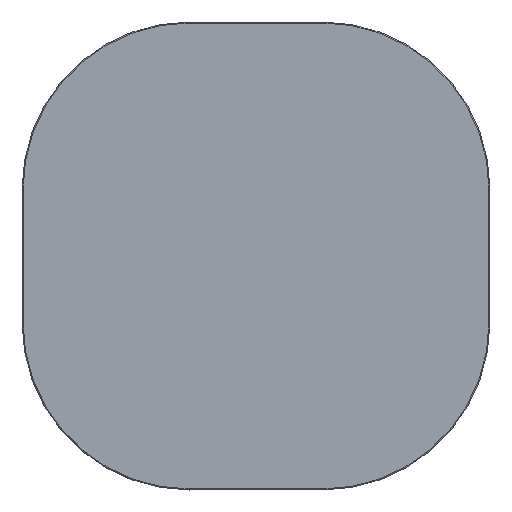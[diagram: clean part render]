
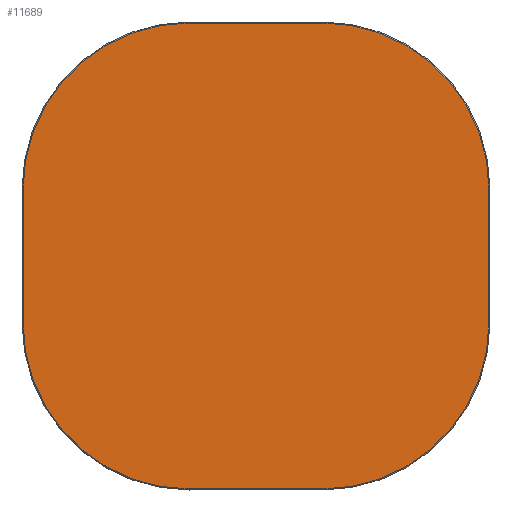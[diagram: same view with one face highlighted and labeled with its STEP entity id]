
A CAD part, top view. The second image highlights one B-rep face of the part: STEP entity #11689.
In plain terms, the highlighted planar face has unit normal (0, 0, 1).
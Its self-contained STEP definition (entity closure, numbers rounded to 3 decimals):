
#11614=CARTESIAN_POINT('',(0.,0.,20.));
#11615=DIRECTION('',(1.,0.,0.));
#11616=DIRECTION('',(0.,0.,1.));
#11617=AXIS2_PLACEMENT_3D('',#11614,#11616,#11615);
#11618=PLANE('',#11617);
#11619=CARTESIAN_POINT('',(-100.,-348.5,20.));
#11620=VERTEX_POINT('',#11619);
#11621=CARTESIAN_POINT('',(100.,-348.5,20.));
#11622=VERTEX_POINT('',#11621);
#11623=CARTESIAN_POINT('',(-100.,-348.5,20.));
#11624=DIRECTION('',(1.,0.,0.));
#11625=VECTOR('',#11624,200.);
#11626=LINE('',#11623,#11625);
#11627=EDGE_CURVE('',#11620,#11622,#11626,.T.);
#11628=ORIENTED_EDGE('E105',*,*,#11627,.T.);
#11629=CARTESIAN_POINT('',(348.5,-100.,20.));
#11630=VERTEX_POINT('',#11629);
#11631=CARTESIAN_POINT('',(100.,-100.,20.));
#11632=DIRECTION('',(0.,-1.,0.));
#11633=DIRECTION('',(0.,0.,1.));
#11634=AXIS2_PLACEMENT_3D('',#11631,#11633,#11632);
#11635=CIRCLE('',#11634,248.5);
#11636=EDGE_CURVE('',#11622,#11630,#11635,.T.);
#11637=ORIENTED_EDGE('E107',*,*,#11636,.T.);
#11638=CARTESIAN_POINT('',(348.5,100.,20.));
#11639=VERTEX_POINT('',#11638);
#11640=CARTESIAN_POINT('',(348.5,-100.,20.));
#11641=DIRECTION('',(0.,1.,0.));
#11642=VECTOR('',#11641,200.);
#11643=LINE('',#11640,#11642);
#11644=EDGE_CURVE('',#11630,#11639,#11643,.T.);
#11645=ORIENTED_EDGE('E109',*,*,#11644,.T.);
#11646=CARTESIAN_POINT('',(100.,348.5,20.));
#11647=VERTEX_POINT('',#11646);
#11648=CARTESIAN_POINT('',(100.,100.,20.));
#11649=DIRECTION('',(1.,0.,0.));
#11650=DIRECTION('',(0.,0.,1.));
#11651=AXIS2_PLACEMENT_3D('',#11648,#11650,#11649);
#11652=CIRCLE('',#11651,248.5);
#11653=EDGE_CURVE('',#11639,#11647,#11652,.T.);
#11654=ORIENTED_EDGE('E111',*,*,#11653,.T.);
#11655=CARTESIAN_POINT('',(-100.,348.5,20.));
#11656=VERTEX_POINT('',#11655);
#11657=CARTESIAN_POINT('',(100.,348.5,20.));
#11658=DIRECTION('',(-1.,0.,0.));
#11659=VECTOR('',#11658,200.);
#11660=LINE('',#11657,#11659);
#11661=EDGE_CURVE('',#11647,#11656,#11660,.T.);
#11662=ORIENTED_EDGE('E113',*,*,#11661,.T.);
#11663=CARTESIAN_POINT('',(-348.5,100.,20.));
#11664=VERTEX_POINT('',#11663);
#11665=CARTESIAN_POINT('',(-100.,100.,20.));
#11666=DIRECTION('',(0.,1.,0.));
#11667=DIRECTION('',(0.,0.,1.));
#11668=AXIS2_PLACEMENT_3D('',#11665,#11667,#11666);
#11669=CIRCLE('',#11668,248.5);
#11670=EDGE_CURVE('',#11656,#11664,#11669,.T.);
#11671=ORIENTED_EDGE('E115',*,*,#11670,.T.);
#11672=CARTESIAN_POINT('',(-348.5,-100.,20.));
#11673=VERTEX_POINT('',#11672);
#11674=CARTESIAN_POINT('',(-348.5,100.,20.));
#11675=DIRECTION('',(0.,-1.,0.));
#11676=VECTOR('',#11675,200.);
#11677=LINE('',#11674,#11676);
#11678=EDGE_CURVE('',#11664,#11673,#11677,.T.);
#11679=ORIENTED_EDGE('E117',*,*,#11678,.T.);
#11680=CARTESIAN_POINT('',(-100.,-100.,20.));
#11681=DIRECTION('',(-1.,0.,0.));
#11682=DIRECTION('',(0.,0.,1.));
#11683=AXIS2_PLACEMENT_3D('',#11680,#11682,#11681);
#11684=CIRCLE('',#11683,248.5);
#11685=EDGE_CURVE('',#11673,#11620,#11684,.T.);
#11686=ORIENTED_EDGE('E119',*,*,#11685,.T.);
#11687=EDGE_LOOP('',(#11628,#11637,#11645,#11654,#11662,#11671,#11679,#11686));
#11688=FACE_OUTER_BOUND('',#11687,.T.);
#11689=ADVANCED_FACE('F2',(#11688),#11618,.T.);
